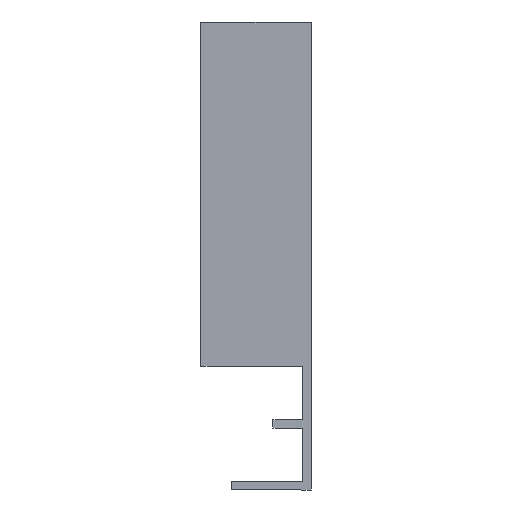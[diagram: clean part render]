
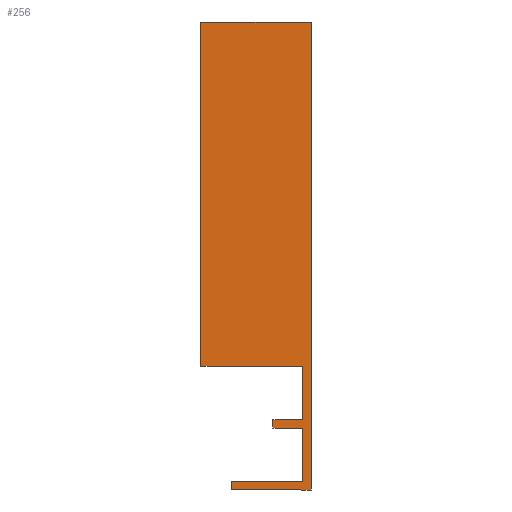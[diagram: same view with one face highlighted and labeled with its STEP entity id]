
A CAD part, left-side view. The second image highlights one B-rep face of the part: STEP entity #256.
In plain terms, the highlighted planar face has unit normal (-1, 0, 0).
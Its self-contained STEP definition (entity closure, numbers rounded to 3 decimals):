
#1 = LINE ( 'NONE', #445, #150 ) ;
#14 = VECTOR ( 'NONE', #432, 1000. ) ;
#18 = LINE ( 'NONE', #417, #14 ) ;
#22 = VECTOR ( 'NONE', #428, 1000. ) ;
#26 = FACE_OUTER_BOUND ( 'NONE', #114, .T. ) ;
#30 = LINE ( 'NONE', #421, #22 ) ;
#64 = ORIENTED_EDGE ( 'NONE', *, *, #282, .T. ) ;
#65 = ORIENTED_EDGE ( 'NONE', *, *, #303, .T. ) ;
#66 = ORIENTED_EDGE ( 'NONE', *, *, #266, .T. ) ;
#67 = ORIENTED_EDGE ( 'NONE', *, *, #281, .T. ) ;
#68 = ORIENTED_EDGE ( 'NONE', *, *, #288, .T. ) ;
#69 = ORIENTED_EDGE ( 'NONE', *, *, #307, .T. ) ;
#70 = ORIENTED_EDGE ( 'NONE', *, *, #321, .T. ) ;
#71 = ORIENTED_EDGE ( 'NONE', *, *, #323, .T. ) ;
#72 = ORIENTED_EDGE ( 'NONE', *, *, #268, .T. ) ;
#73 = ORIENTED_EDGE ( 'NONE', *, *, #314, .T. ) ;
#74 = ORIENTED_EDGE ( 'NONE', *, *, #306, .T. ) ;
#75 = ORIENTED_EDGE ( 'NONE', *, *, #324, .T. ) ;
#114 = EDGE_LOOP ( 'NONE', ( #75, #74, #73, #72, #71, #70, #69, #68, #67, #66, #65, #64 ) ) ;
#150 = VECTOR ( 'NONE', #446, 1000. ) ;
#151 = LINE ( 'NONE', #447, #152 ) ;
#152 = VECTOR ( 'NONE', #448, 1000. ) ;
#157 = LINE ( 'NONE', #471, #182 ) ;
#158 = LINE ( 'NONE', #456, #161 ) ;
#161 = VECTOR ( 'NONE', #460, 1000. ) ;
#178 = LINE ( 'NONE', #477, #179 ) ;
#179 = VECTOR ( 'NONE', #478, 1000. ) ;
#182 = VECTOR ( 'NONE', #482, 1000. ) ;
#184 = LINE ( 'NONE', #483, #185 ) ;
#185 = VECTOR ( 'NONE', #484, 1000. ) ;
#189 = VECTOR ( 'NONE', #511, 1000. ) ;
#190 = LINE ( 'NONE', #510, #189 ) ;
#193 = LINE ( 'NONE', #494, #194 ) ;
#194 = VECTOR ( 'NONE', #495, 1000. ) ;
#202 = LINE ( 'NONE', #505, #203 ) ;
#203 = VECTOR ( 'NONE', #506, 1000. ) ;
#205 = LINE ( 'NONE', #512, #206 ) ;
#206 = VECTOR ( 'NONE', #513, 1000. ) ;
#217 = VERTEX_POINT ( 'NONE', #350 ) ;
#220 = VERTEX_POINT ( 'NONE', #349 ) ;
#222 = VERTEX_POINT ( 'NONE', #347 ) ;
#224 = VERTEX_POINT ( 'NONE', #348 ) ;
#256 = ADVANCED_FACE ( 'NONE', ( #26 ), #401, .T. ) ;
#258 = AXIS2_PLACEMENT_3D ( 'NONE', #403, #415, #416 ) ;
#266 = EDGE_CURVE ( 'NONE', #222, #220, #30, .T. ) ;
#268 = EDGE_CURVE ( 'NONE', #346, #340, #18, .T. ) ;
#281 = EDGE_CURVE ( 'NONE', #224, #222, #1, .T. ) ;
#282 = EDGE_CURVE ( 'NONE', #217, #335, #151, .T. ) ;
#288 = EDGE_CURVE ( 'NONE', #352, #224, #158, .T. ) ;
#303 = EDGE_CURVE ( 'NONE', #220, #217, #178, .T. ) ;
#306 = EDGE_CURVE ( 'NONE', #337, #338, #157, .T. ) ;
#307 = EDGE_CURVE ( 'NONE', #344, #352, #184, .T. ) ;
#314 = EDGE_CURVE ( 'NONE', #338, #346, #193, .T. ) ;
#321 = EDGE_CURVE ( 'NONE', #339, #344, #202, .T. ) ;
#323 = EDGE_CURVE ( 'NONE', #340, #339, #190, .T. ) ;
#324 = EDGE_CURVE ( 'NONE', #335, #337, #205, .T. ) ;
#335 = VERTEX_POINT ( 'NONE', #514 ) ;
#337 = VERTEX_POINT ( 'NONE', #519 ) ;
#338 = VERTEX_POINT ( 'NONE', #520 ) ;
#339 = VERTEX_POINT ( 'NONE', #500 ) ;
#340 = VERTEX_POINT ( 'NONE', #521 ) ;
#344 = VERTEX_POINT ( 'NONE', #525 ) ;
#346 = VERTEX_POINT ( 'NONE', #527 ) ;
#347 = CARTESIAN_POINT ( 'NONE',  ( -210.5, 0., -7.75 ) ) ;
#348 = CARTESIAN_POINT ( 'NONE',  ( -210.5, -4.3, -7.75 ) ) ;
#349 = CARTESIAN_POINT ( 'NONE',  ( -210.5, 0., -8.95 ) ) ;
#350 = CARTESIAN_POINT ( 'NONE',  ( -210.5, -4.3, -8.95 ) ) ;
#352 = VERTEX_POINT ( 'NONE', #528 ) ;
#401 = PLANE ( 'NONE',  #258 ) ;
#403 = CARTESIAN_POINT ( 'NONE',  ( -210.5, 6., -16.7 ) ) ;
#415 = DIRECTION ( 'NONE',  ( -1., 0., 0. ) ) ;
#416 = DIRECTION ( 'NONE',  ( 0., -1., 0. ) ) ;
#417 = CARTESIAN_POINT ( 'NONE',  ( -210.5, -5.5, -17.9 ) ) ;
#421 = CARTESIAN_POINT ( 'NONE',  ( -210.5, 0., -7.75 ) ) ;
#428 = DIRECTION ( 'NONE',  ( 0., 0., -1. ) ) ;
#432 = DIRECTION ( 'NONE',  ( 0., 0., 1. ) ) ;
#445 = CARTESIAN_POINT ( 'NONE',  ( -210.5, -4.3, -7.75 ) ) ;
#446 = DIRECTION ( 'NONE',  ( 0., 1., 0. ) ) ;
#447 = CARTESIAN_POINT ( 'NONE',  ( -210.5, -4.3, -8.95 ) ) ;
#448 = DIRECTION ( 'NONE',  ( 0., 0., -1. ) ) ;
#456 = CARTESIAN_POINT ( 'NONE',  ( -210.5, -4.3, 0. ) ) ;
#460 = DIRECTION ( 'NONE',  ( 0., 0., -1. ) ) ;
#471 = CARTESIAN_POINT ( 'NONE',  ( -210.5, 6., -16.7 ) ) ;
#477 = CARTESIAN_POINT ( 'NONE',  ( -210.5, 0., -8.95 ) ) ;
#478 = DIRECTION ( 'NONE',  ( 0., -1., 0. ) ) ;
#482 = DIRECTION ( 'NONE',  ( 0., 0., -1. ) ) ;
#483 = CARTESIAN_POINT ( 'NONE',  ( -210.5, 10.4, 0. ) ) ;
#484 = DIRECTION ( 'NONE',  ( 0., -1., 0. ) ) ;
#494 = CARTESIAN_POINT ( 'NONE',  ( -210.5, 6., -17.9 ) ) ;
#495 = DIRECTION ( 'NONE',  ( 0., -1., 0. ) ) ;
#500 = CARTESIAN_POINT ( 'NONE',  ( -210.5, 10.4, 49.7 ) ) ;
#505 = CARTESIAN_POINT ( 'NONE',  ( -210.5, 10.4, 49.7 ) ) ;
#506 = DIRECTION ( 'NONE',  ( 0., 0., -1. ) ) ;
#510 = CARTESIAN_POINT ( 'NONE',  ( -210.5, -5.5, 49.7 ) ) ;
#511 = DIRECTION ( 'NONE',  ( 0., 1., 0. ) ) ;
#512 = CARTESIAN_POINT ( 'NONE',  ( -210.5, -4.3, -16.7 ) ) ;
#513 = DIRECTION ( 'NONE',  ( 0., 1., 0. ) ) ;
#514 = CARTESIAN_POINT ( 'NONE',  ( -210.5, -4.3, -16.7 ) ) ;
#519 = CARTESIAN_POINT ( 'NONE',  ( -210.5, 6., -16.7 ) ) ;
#520 = CARTESIAN_POINT ( 'NONE',  ( -210.5, 6., -17.9 ) ) ;
#521 = CARTESIAN_POINT ( 'NONE',  ( -210.5, -5.5, 49.7 ) ) ;
#525 = CARTESIAN_POINT ( 'NONE',  ( -210.5, 10.4, 0. ) ) ;
#527 = CARTESIAN_POINT ( 'NONE',  ( -210.5, -5.5, -17.9 ) ) ;
#528 = CARTESIAN_POINT ( 'NONE',  ( -210.5, -4.3, 0. ) ) ;
